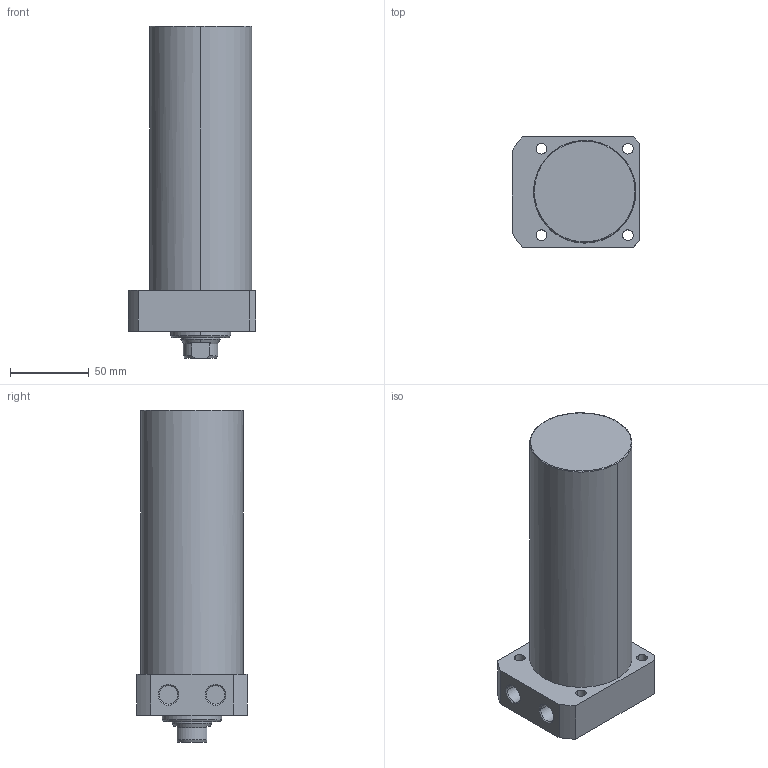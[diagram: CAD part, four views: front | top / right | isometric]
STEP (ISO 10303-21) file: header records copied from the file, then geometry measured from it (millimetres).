
FILE_DESCRIPTION((' '),'2;1');
FILE_NAME( 'TLLR-065CA-135.STEP.stp', '2025-10-24T16:34:55', (' '), ('--- Datakit www.datakit.com---'), ' Datakit CrossCadWare V2024.1 Dec 21 2023', 'Mastercam 2025', ' ');
FILE_SCHEMA(('AUTOMOTIVE_DESIGN { 1 0 10303 214 1 1 1 1 }'));
Length unit declared in the file: millimetre
Products named in the file (1): TLLR-065CA-135
Bounding box: 81 x 70 x 211 mm (x, y, z)
Volume: 701448.6 mm3; surface area: 58736 mm2
Topology: 1 solids, 1 shells, 63 faces, 179 edges, 124 vertices
Faces by surface type: cylinder 28, plane 19, cone 14, torus 2
Entity records: 2174 total; most frequent: DIRECTION 402, CARTESIAN_POINT 397, ORIENTED_EDGE 354, EDGE_CURVE 177, AXIS2_PLACEMENT_3D 169, VERTEX_POINT 124, CIRCLE 105, EDGE_LOOP 79
